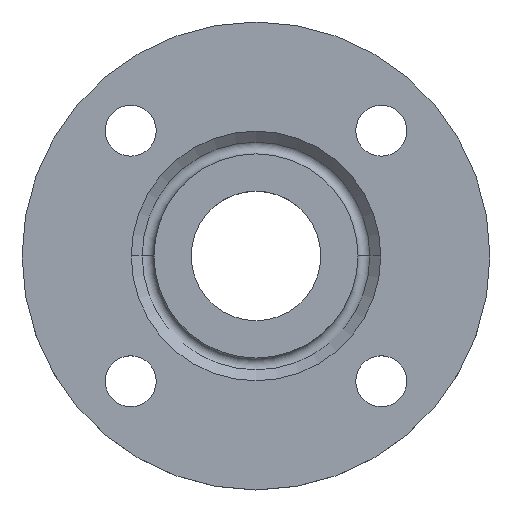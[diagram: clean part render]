
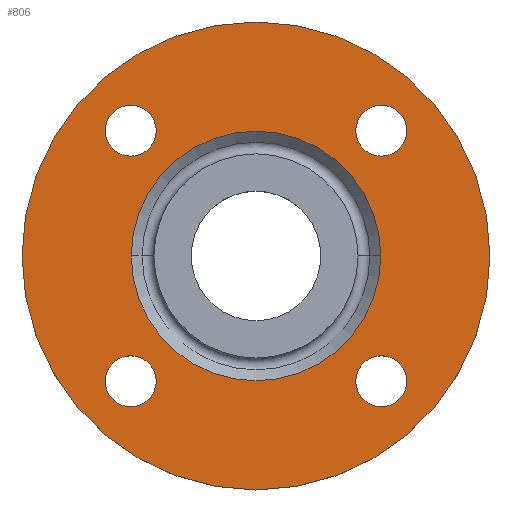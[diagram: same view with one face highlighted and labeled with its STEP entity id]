
A CAD part, top view. The second image highlights one B-rep face of the part: STEP entity #806.
In plain terms, the highlighted planar face has unit normal (0, 0, 1).
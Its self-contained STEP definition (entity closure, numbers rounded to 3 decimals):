
#4 = DIRECTION ( 'NONE',  ( 1., 0., 0. ) ) ;
#6 = DIRECTION ( 'NONE',  ( 0., 0., -1. ) ) ;
#7 = AXIS2_PLACEMENT_3D ( 'NONE', #623, #626, #627 ) ;
#8 = CARTESIAN_POINT ( 'NONE',  ( -44.194, -44.194, -2. ) ) ;
#9 = CARTESIAN_POINT ( 'NONE',  ( 0., 0., -2. ) ) ;
#13 = DIRECTION ( 'NONE',  ( 1., 0., 0. ) ) ;
#14 = DIRECTION ( 'NONE',  ( 0., 0., 1. ) ) ;
#16 = CARTESIAN_POINT ( 'NONE',  ( 82.5, 0., -2. ) ) ;
#17 = AXIS2_PLACEMENT_3D ( 'NONE', #784, #785, #786 ) ;
#18 = PLANE ( 'NONE',  #597 ) ;
#19 = CIRCLE ( 'NONE', #17, 9. ) ;
#20 = CARTESIAN_POINT ( 'NONE',  ( 82.5, 0., -2. ) ) ;
#22 = FACE_OUTER_BOUND ( 'NONE', #525, .T. ) ;
#23 = FACE_BOUND ( 'NONE', #568, .T. ) ;
#26 = FACE_BOUND ( 'NONE', #564, .T. ) ;
#27 = FACE_BOUND ( 'NONE', #576, .T. ) ;
#28 = FACE_BOUND ( 'NONE', #584, .T. ) ;
#29 = FACE_BOUND ( 'NONE', #600, .T. ) ;
#48 = DIRECTION ( 'NONE',  ( 1., 0., 0. ) ) ;
#50 = DIRECTION ( 'NONE',  ( 0., 0., -1. ) ) ;
#53 = CARTESIAN_POINT ( 'NONE',  ( -44.194, 44.194, -2. ) ) ;
#63 = CIRCLE ( 'NONE', #102, 9. ) ;
#71 = DIRECTION ( 'NONE',  ( -1., 0., 0. ) ) ;
#72 = DIRECTION ( 'NONE',  ( 0., 0., -1. ) ) ;
#93 = EDGE_CURVE ( 'NONE', #398, #498, #724, .T. ) ;
#102 = AXIS2_PLACEMENT_3D ( 'NONE', #8, #6, #4 ) ;
#119 = CARTESIAN_POINT ( 'NONE',  ( -82.5, 0., -2. ) ) ;
#126 = CARTESIAN_POINT ( 'NONE',  ( -53.194, -44.194, -2. ) ) ;
#129 = CARTESIAN_POINT ( 'NONE',  ( -35.194, 44.194, -2. ) ) ;
#132 = CARTESIAN_POINT ( 'NONE',  ( 53.194, -44.194, -2. ) ) ;
#143 = EDGE_CURVE ( 'NONE', #539, #523, #334, .T. ) ;
#171 = CARTESIAN_POINT ( 'NONE',  ( 44.194, -44.194, -2. ) ) ;
#173 = DIRECTION ( 'NONE',  ( 0., 0., -1. ) ) ;
#174 = DIRECTION ( 'NONE',  ( 1., 0., 0. ) ) ;
#175 = CARTESIAN_POINT ( 'NONE',  ( 0., 0., -2. ) ) ;
#176 = DIRECTION ( 'NONE',  ( 0., 0., -1. ) ) ;
#178 = EDGE_CURVE ( 'NONE', #438, #540, #605, .T. ) ;
#179 = DIRECTION ( 'NONE',  ( -1., 0., 0. ) ) ;
#181 = AXIS2_PLACEMENT_3D ( 'NONE', #696, #698, #700 ) ;
#188 = CIRCLE ( 'NONE', #595, 9. ) ;
#193 = EDGE_CURVE ( 'NONE', #551, #529, #699, .T. ) ;
#198 = ORIENTED_EDGE ( 'NONE', *, *, #759, .T. ) ;
#199 = ORIENTED_EDGE ( 'NONE', *, *, #620, .T. ) ;
#200 = VERTEX_POINT ( 'NONE', #725 ) ;
#211 = ORIENTED_EDGE ( 'NONE', *, *, #287, .T. ) ;
#215 = ORIENTED_EDGE ( 'NONE', *, *, #823, .T. ) ;
#217 = VERTEX_POINT ( 'NONE', #734 ) ;
#221 = ORIENTED_EDGE ( 'NONE', *, *, #440, .T. ) ;
#230 = CARTESIAN_POINT ( 'NONE',  ( 35.194, 44.194, -2. ) ) ;
#240 = CARTESIAN_POINT ( 'NONE',  ( 44., 0., -2. ) ) ;
#265 = CARTESIAN_POINT ( 'NONE',  ( -44., 0., -2. ) ) ;
#266 = CARTESIAN_POINT ( 'NONE',  ( 44.194, 44.194, -2. ) ) ;
#267 = DIRECTION ( 'NONE',  ( 0., 0., -1. ) ) ;
#269 = DIRECTION ( 'NONE',  ( 1., 0., 0. ) ) ;
#287 = EDGE_CURVE ( 'NONE', #534, #200, #19, .T. ) ;
#303 = ORIENTED_EDGE ( 'NONE', *, *, #193, .F. ) ;
#304 = CARTESIAN_POINT ( 'NONE',  ( 53.194, 44.194, -2. ) ) ;
#314 = DIRECTION ( 'NONE',  ( 0., 0., -1. ) ) ;
#315 = DIRECTION ( 'NONE',  ( 1., 0., 0. ) ) ;
#317 = CARTESIAN_POINT ( 'NONE',  ( 44.194, -44.194, -2. ) ) ;
#320 = AXIS2_PLACEMENT_3D ( 'NONE', #317, #314, #315 ) ;
#334 = CIRCLE ( 'NONE', #528, 9. ) ;
#341 = CIRCLE ( 'NONE', #436, 9. ) ;
#358 = CARTESIAN_POINT ( 'NONE',  ( -35.194, -44.194, -2. ) ) ;
#364 = ORIENTED_EDGE ( 'NONE', *, *, #370, .T. ) ;
#365 = ORIENTED_EDGE ( 'NONE', *, *, #712, .F. ) ;
#366 = ORIENTED_EDGE ( 'NONE', *, *, #369, .T. ) ;
#369 = EDGE_CURVE ( 'NONE', #521, #217, #419, .T. ) ;
#370 = EDGE_CURVE ( 'NONE', #540, #438, #586, .T. ) ;
#396 = AXIS2_PLACEMENT_3D ( 'NONE', #171, #173, #174 ) ;
#398 = VERTEX_POINT ( 'NONE', #230 ) ;
#413 = AXIS2_PLACEMENT_3D ( 'NONE', #9, #72, #71 ) ;
#419 = CIRCLE ( 'NONE', #396, 9. ) ;
#423 = CIRCLE ( 'NONE', #413, 82.5 ) ;
#436 = AXIS2_PLACEMENT_3D ( 'NONE', #266, #267, #269 ) ;
#438 = VERTEX_POINT ( 'NONE', #265 ) ;
#440 = EDGE_CURVE ( 'NONE', #498, #398, #341, .T. ) ;
#483 = ORIENTED_EDGE ( 'NONE', *, *, #178, .T. ) ;
#486 = ORIENTED_EDGE ( 'NONE', *, *, #93, .T. ) ;
#498 = VERTEX_POINT ( 'NONE', #304 ) ;
#521 = VERTEX_POINT ( 'NONE', #132 ) ;
#523 = VERTEX_POINT ( 'NONE', #126 ) ;
#525 = EDGE_LOOP ( 'NONE', ( #303, #365 ) ) ;
#528 = AXIS2_PLACEMENT_3D ( 'NONE', #650, #651, #652 ) ;
#529 = VERTEX_POINT ( 'NONE', #119 ) ;
#530 = AXIS2_PLACEMENT_3D ( 'NONE', #710, #713, #714 ) ;
#534 = VERTEX_POINT ( 'NONE', #129 ) ;
#539 = VERTEX_POINT ( 'NONE', #358 ) ;
#540 = VERTEX_POINT ( 'NONE', #240 ) ;
#551 = VERTEX_POINT ( 'NONE', #20 ) ;
#552 = CIRCLE ( 'NONE', #320, 9. ) ;
#557 = AXIS2_PLACEMENT_3D ( 'NONE', #175, #176, #179 ) ;
#564 = EDGE_LOOP ( 'NONE', ( #221, #486 ) ) ;
#568 = EDGE_LOOP ( 'NONE', ( #364, #483 ) ) ;
#576 = EDGE_LOOP ( 'NONE', ( #211, #198 ) ) ;
#584 = EDGE_LOOP ( 'NONE', ( #668, #215 ) ) ;
#586 = CIRCLE ( 'NONE', #557, 44. ) ;
#595 = AXIS2_PLACEMENT_3D ( 'NONE', #53, #50, #48 ) ;
#597 = AXIS2_PLACEMENT_3D ( 'NONE', #16, #14, #13 ) ;
#600 = EDGE_LOOP ( 'NONE', ( #366, #199 ) ) ;
#605 = CIRCLE ( 'NONE', #181, 44. ) ;
#620 = EDGE_CURVE ( 'NONE', #217, #521, #552, .T. ) ;
#623 = CARTESIAN_POINT ( 'NONE',  ( 44.194, 44.194, -2. ) ) ;
#626 = DIRECTION ( 'NONE',  ( 0., 0., -1. ) ) ;
#627 = DIRECTION ( 'NONE',  ( 1., 0., 0. ) ) ;
#650 = CARTESIAN_POINT ( 'NONE',  ( -44.194, -44.194, -2. ) ) ;
#651 = DIRECTION ( 'NONE',  ( 0., 0., -1. ) ) ;
#652 = DIRECTION ( 'NONE',  ( 1., 0., 0. ) ) ;
#668 = ORIENTED_EDGE ( 'NONE', *, *, #143, .T. ) ;
#696 = CARTESIAN_POINT ( 'NONE',  ( 0., 0., -2. ) ) ;
#698 = DIRECTION ( 'NONE',  ( 0., 0., -1. ) ) ;
#699 = CIRCLE ( 'NONE', #530, 82.5 ) ;
#700 = DIRECTION ( 'NONE',  ( -1., 0., 0. ) ) ;
#710 = CARTESIAN_POINT ( 'NONE',  ( 0., 0., -2. ) ) ;
#712 = EDGE_CURVE ( 'NONE', #529, #551, #423, .T. ) ;
#713 = DIRECTION ( 'NONE',  ( 0., 0., -1. ) ) ;
#714 = DIRECTION ( 'NONE',  ( -1., 0., 0. ) ) ;
#724 = CIRCLE ( 'NONE', #7, 9. ) ;
#725 = CARTESIAN_POINT ( 'NONE',  ( -53.194, 44.194, -2. ) ) ;
#734 = CARTESIAN_POINT ( 'NONE',  ( 35.194, -44.194, -2. ) ) ;
#759 = EDGE_CURVE ( 'NONE', #200, #534, #188, .T. ) ;
#784 = CARTESIAN_POINT ( 'NONE',  ( -44.194, 44.194, -2. ) ) ;
#785 = DIRECTION ( 'NONE',  ( 0., 0., -1. ) ) ;
#786 = DIRECTION ( 'NONE',  ( 1., 0., 0. ) ) ;
#806 = ADVANCED_FACE ( 'NONE', ( #29, #28, #27, #26, #23, #22 ), #18, .T. ) ;
#823 = EDGE_CURVE ( 'NONE', #523, #539, #63, .T. ) ;
